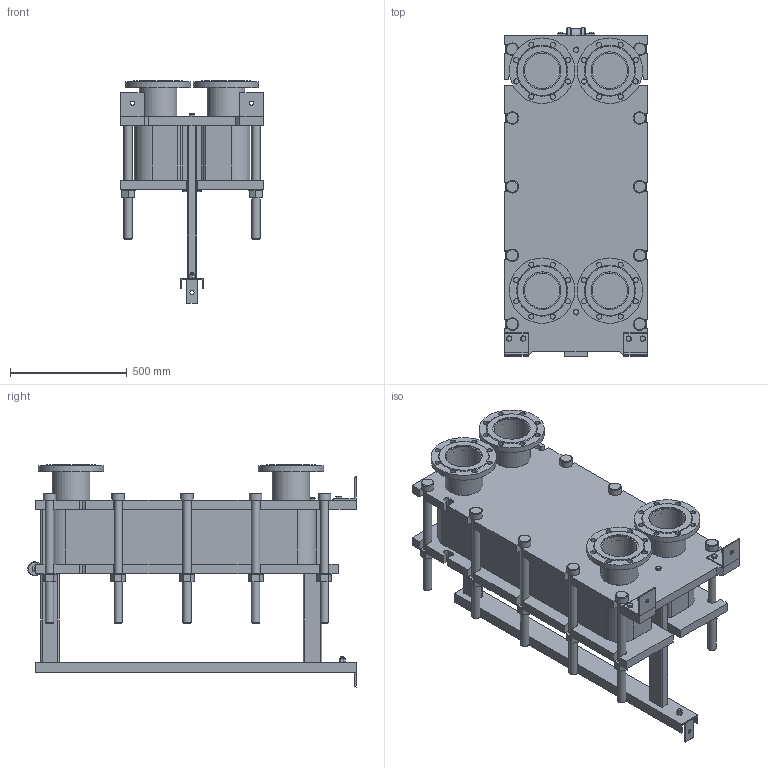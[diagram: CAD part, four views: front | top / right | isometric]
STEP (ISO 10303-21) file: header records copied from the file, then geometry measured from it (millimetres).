
FILE_DESCRIPTION(/* description */ (''),/* implementation_level */ '2;1');
FILE_NAME(/* name */ 'C:\Users\zhuro\Desktop\ENCO\TO\ЭН-041\ЭН-0,5-041-68-1.stp',/* time_stamp */ '2022-06-06T10:54:58+03:00',/* author */ ('zhuro'),/* organization */ (''),/* preprocessor_version */ 'ST-DEVELOPER v18.1',/* originating_system */ 'Autodesk Inventor 2022',/* authorisation */ '');
FILE_SCHEMA (('AUTOMOTIVE_DESIGN { 1 0 10303 214 3 1 1 }'));
Length unit declared in the file: millimetre
Products named in the file (1): ЭН-0,5-041-68-1
Bounding box: 610 x 1406.5 x 950 mm (x, y, z)
Volume: 210172215.6 mm3; surface area: 8318937.4 mm2
Topology: 52 solids, 52 shells, 711 faces, 1696 edges, 1094 vertices
Faces by surface type: plane 487, cylinder 177, cone 41, torus 6
Full cylindrical faces by diameter (mm): 8 x4, 10 x2, 16 x8, 18 x3, 22 x32, 36 x24, 50 x1, 54 x10, 60 x12, 151 x4, 161 x8, 280 x4
Entity records: 22667 total; most frequent: CARTESIAN_POINT 5230, DIRECTION 3644, ORIENTED_EDGE 3392, EDGE_CURVE 1696, AXIS2_PLACEMENT_3D 1272, LINE 1100, VECTOR 1100, VERTEX_POINT 1094
